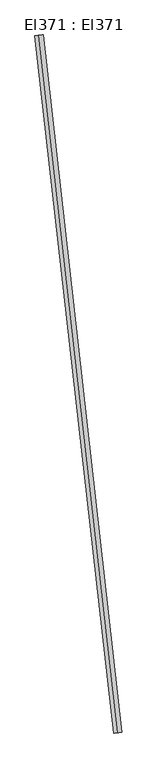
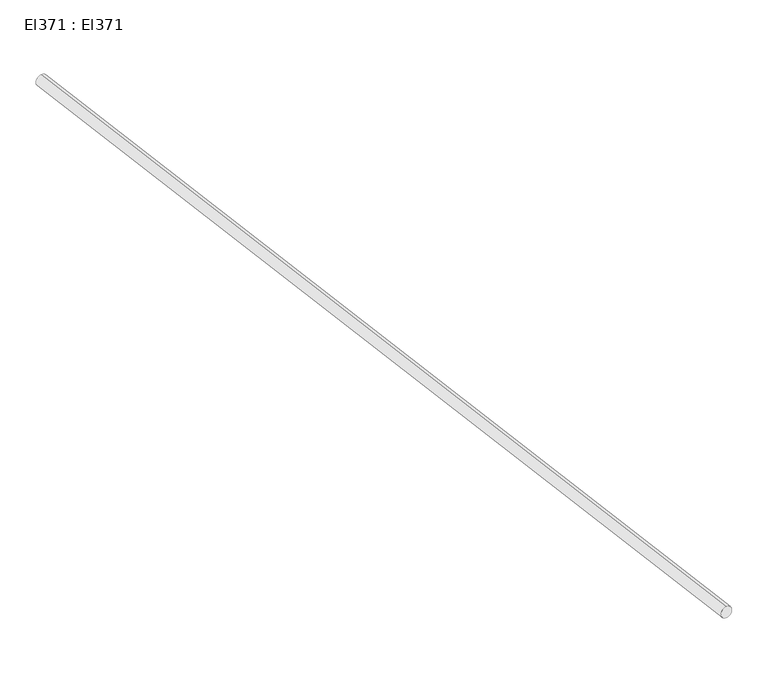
"""IFC4 building model written with IfcOpenShell, lengths in millimetres: cable carrier segment geometry, El371 : El371."""

import ifcopenshell
import ifcopenshell.guid

model = None  # the IFC model being written
_history = None  # IfcOwnerHistory: only IFC2X3 demands one
_inside = {}  # id of a spatial element -> (the spatial element, [elements in it])
_under = {}  # id of a project, library or spatial element -> (it, [spatial elements below it])
_declared = {}  # id of a project -> (the project, [libraries it declares])
_typed = {}  # id of a type object -> (the type object, [elements of that type])
_made_of = {}  # id of a material, layer set ... -> (it, [elements and type objects made of it])


def new_model(schema):
    """Start an empty IFC model of exactly this schema.

    Asked for "IFC4X3", IfcOpenShell would pick the latest addendum, in which some entities
    have other attributes; the version numbers below select the first issue.
    IFC2X3 requires an IfcOwnerHistory on every rooted entity: one is made here for all.
    """
    global model, _history
    if schema == "IFC4X3":
        model = ifcopenshell.file(schema_version=(4, 3, 0, 0))
    else:
        model = ifcopenshell.file(schema=schema)
    _inside.clear()
    _under.clear()
    _declared.clear()
    _typed.clear()
    _made_of.clear()
    _history = None
    if model.schema == "IFC2X3":
        org = make("IfcOrganization", Name="unknown")
        user = make(
            "IfcPersonAndOrganization",
            ThePerson=make("IfcPerson", FamilyName="unknown"),
            TheOrganization=org,
        )
        app = make(
            "IfcApplication",
            ApplicationDeveloper=org,
            Version="unknown",
            ApplicationFullName="unknown",
            ApplicationIdentifier="unknown",
        )
        _history = make(
            "IfcOwnerHistory",
            OwningUser=user,
            OwningApplication=app,
            ChangeAction="ADDED",
            CreationDate=0,
        )
    return model


def make(cls, **values):
    """One entity of the class cls with the attributes given. An attribute that is None is left unset."""
    return model.create_entity(
        cls, **{name: value for name, value in values.items() if value is not None}
    )


def rooted(cls, **values):
    """An entity with a GlobalId (a new one), such as an element, a storey or a relation."""
    return make(cls, GlobalId=ifcopenshell.guid.new(), OwnerHistory=_history, **values)


def si_unit(unit_type, name, prefix=None):
    """IfcSIUnit, for example si_unit("LENGTHUNIT", "METRE", prefix="MILLI")."""
    return make("IfcSIUnit", UnitType=unit_type, Prefix=prefix, Name=name)


def assignment(units):
    """IfcUnitAssignment: the units of a project."""
    return None if units is None else make("IfcUnitAssignment", Units=units)


def point(xyz):
    """IfcCartesianPoint."""
    return None if xyz is None else make("IfcCartesianPoint", Coordinates=xyz)


def direction(xyz):
    """IfcDirection."""
    return None if xyz is None else make("IfcDirection", DirectionRatios=xyz)


def frame(location, z_axis=None, x_axis=None):
    """IfcAxis2Placement3D, a coordinate frame: its origin and axes. An axis left out is left unset."""
    return make(
        "IfcAxis2Placement3D",
        Location=point(location),
        Axis=direction(z_axis),
        RefDirection=direction(x_axis),
    )


def frame_2d(location, x_axis=None):
    """IfcAxis2Placement2D, a coordinate frame in the plane: its origin and x axis."""
    return make(
        "IfcAxis2Placement2D", Location=point(location), RefDirection=direction(x_axis)
    )


def origin():
    """The frame at (0, 0, 0) with its axes left unset."""
    return frame((0.0, 0.0, 0.0))


def place(relative_to, where):
    """IfcLocalPlacement: puts the frame where relative to a parent placement (None: the world)."""
    return make(
        "IfcLocalPlacement", PlacementRelTo=relative_to, RelativePlacement=where
    )


def context(
    kind, dimensions, precision=None, world=None, true_north=None, identifier=None
):
    """IfcGeometricRepresentationContext, for example the 3D "Model" context."""
    return make(
        "IfcGeometricRepresentationContext",
        ContextIdentifier=identifier,
        ContextType=kind,
        CoordinateSpaceDimension=dimensions,
        Precision=precision,
        WorldCoordinateSystem=world,
        TrueNorth=true_north,
    )


def project(units=None, contexts=None):
    """IfcProject with its units and contexts."""
    return rooted(
        "IfcProject",
        Name="project",
        RepresentationContexts=contexts,
        UnitsInContext=assignment(units),
    )


def spatial(cls, under=None, at=None, **own):
    """A site, building, storey or space (cls), placed at a placement, below another one or the project."""
    s = rooted(cls, ObjectPlacement=at, **own)
    if under is not None:
        _under.setdefault(under.id(), (under, []))[1].append(s)
    return s


def circle_curve(where, radius):
    """IfcCircle in the frame where."""
    return make("IfcCircle", Position=where, Radius=radius)


def trimmed(basis, trim1, trim2, sense, master):
    """IfcTrimmedCurve: the piece of a basis curve between two trims."""
    return make(
        "IfcTrimmedCurve",
        BasisCurve=basis,
        Trim1=trim1,
        Trim2=trim2,
        SenseAgreement=sense,
        MasterRepresentation=master,
    )


def segment(curve, same_sense, transition):
    """IfcCompositeCurveSegment."""
    return make(
        "IfcCompositeCurveSegment",
        Transition=transition,
        SameSense=same_sense,
        ParentCurve=curve,
    )


def composite_curve(segments, self_intersect=None):
    """IfcCompositeCurve: segments joined end to end."""
    return make("IfcCompositeCurve", Segments=segments, SelfIntersect=self_intersect)


def outline(outer, holes=None, kind="AREA"):
    """IfcArbitraryClosedProfileDef: a profile drawn as a closed curve; with holes, ...WithVoids."""
    if holes is None:
        return make("IfcArbitraryClosedProfileDef", ProfileType=kind, OuterCurve=outer)
    return make(
        "IfcArbitraryProfileDefWithVoids",
        ProfileType=kind,
        OuterCurve=outer,
        InnerCurves=holes,
    )


def extrude(swept, where, along, depth):
    """IfcExtrudedAreaSolid: the profile swept, set in the frame where, extruded along a direction by depth."""
    return make(
        "IfcExtrudedAreaSolid",
        SweptArea=swept,
        Position=where,
        ExtrudedDirection=direction(along),
        Depth=depth,
    )


def shape(context_of_items, identifier, shape_type, items):
    """IfcShapeRepresentation: the items that make up one representation, for example the "Body"."""
    return make(
        "IfcShapeRepresentation",
        ContextOfItems=context_of_items,
        RepresentationIdentifier=identifier,
        RepresentationType=shape_type,
        Items=items,
    )


def source(mapping_origin, context_of_items, identifier, shape_type, items):
    """IfcRepresentationMap: a shape defined once, which mapped items show again and again."""
    return make(
        "IfcRepresentationMap",
        MappingOrigin=mapping_origin,
        MappedRepresentation=shape(context_of_items, identifier, shape_type, items),
    )


def transform(
    local_origin,
    x_axis=None,
    y_axis=None,
    z_axis=None,
    scale=None,
    scale2=None,
    scale3=None,
    uniform=True,
):
    """IfcCartesianTransformationOperator3D, or its non-uniform kind. x_axis, y_axis, z_axis: its Axis1, 2, 3."""
    if uniform:
        return make(
            "IfcCartesianTransformationOperator3D",
            Axis1=direction(x_axis),
            Axis2=direction(y_axis),
            LocalOrigin=point(local_origin),
            Scale=scale,
            Axis3=direction(z_axis),
        )
    return make(
        "IfcCartesianTransformationOperator3DnonUniform",
        Axis1=direction(x_axis),
        Axis2=direction(y_axis),
        LocalOrigin=point(local_origin),
        Scale=scale,
        Axis3=direction(z_axis),
        Scale2=scale2,
        Scale3=scale3,
    )


def mapped(mapping_source, mapping_target):
    """IfcMappedItem: shows the shape of a source again, moved by a transform."""
    return make(
        "IfcMappedItem", MappingSource=mapping_source, MappingTarget=mapping_target
    )


def made_of(thing, what):
    """Note that an element or type object is made of a material, layer set ...; save() writes the relation."""
    if what is not None:
        _made_of.setdefault(what.id(), (what, []))[1].append(thing)
    return thing


def element(
    cls,
    number,
    at=None,
    inside=None,
    cuts=None,
    type_object=None,
    material=None,
    context=None,
    identifier="Body",
    shape_type=None,
    held_by="IfcProductDefinitionShape",
    body=None,
    shapes=None,
    **own,
):
    """One element of the class cls, such as IfcWall. Its Tag is "e" and its number.

    at: its placement. inside: the storey or other place that contains it. cuts: it is an
    opening in that element (IfcRelVoidsElement). A single representation is given by context,
    identifier, shape_type and body (its items); several are given by shapes. held_by: the class
    of the entity that holds the representations. save() writes the other relations.
    """
    e = rooted(cls, Tag="e%d" % number, ObjectPlacement=at, **own)
    if body is not None:
        shapes = [shape(context, identifier, shape_type, body)]
    if shapes is not None:
        e.Representation = make(held_by, Representations=shapes)
    if inside is not None:
        _inside.setdefault(inside.id(), (inside, []))[1].append(e)
    if cuts is not None:
        rooted(
            "IfcRelVoidsElement", RelatingBuildingElement=cuts, RelatedOpeningElement=e
        )
    if type_object is not None:
        _typed.setdefault(type_object.id(), (type_object, []))[1].append(e)
    return made_of(e, material)


def aggregate(whole, parts):
    """IfcRelAggregates: a whole, such as a stair, and the parts it consists of."""
    return rooted("IfcRelAggregates", RelatingObject=whole, RelatedObjects=parts)


def save(model, path):
    """Write the relations noted so far, then the file.

    IfcRelAggregates (storeys below a building ...), IfcRelContainedInSpatialStructure (elements
    in a storey), IfcRelDefinesByType, IfcRelAssociatesMaterial and IfcRelDeclares: one each for
    every whole, place, type object, material and project.
    """
    for whole, parts in _under.values():
        aggregate(whole, parts)
    for where, things in _inside.values():
        rooted(
            "IfcRelContainedInSpatialStructure",
            RelatedElements=things,
            RelatingStructure=where,
        )
    for kind, things in _typed.values():
        rooted("IfcRelDefinesByType", RelatedObjects=things, RelatingType=kind)
    for what, things in _made_of.values():
        rooted("IfcRelAssociatesMaterial", RelatedObjects=things, RelatingMaterial=what)
    for by, libraries in _declared.values():
        rooted("IfcRelDeclares", RelatingContext=by, RelatedDefinitions=libraries)
    model.write(path)


def el371_el371_8ea2ea70(model_context):
    return source(origin(), model_context, "Body", "SweptSolid", [
        extrude(outline(composite_curve([segment(trimmed(circle_curve(frame_2d((0.0, -9.5)), 9.5), [point((0.0, -19.0))], [point((0.0, 0.0))], False, "CARTESIAN"), True, "CONTINUOUS"), segment(trimmed(circle_curve(frame_2d((0.0, -9.5)), 9.5), [point((0.0, 0.0))], [point((0.0, -19.0))], False, "CARTESIAN"), True, "CONTINUOUS")], self_intersect=False)), frame((8335.8131751, 14766.3756201, 2959.5), z_axis=(-0.11219096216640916, 0.993686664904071, 0.0), x_axis=(-0.993686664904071, -0.11219096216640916, 0.0)), (0.0, 0.0, 1.0), 1630.14),
    ])


if __name__ == "__main__":
    model = new_model("IFC4")
    model_context = context("Model", 3, world=origin())
    ifc_project = project(units=[si_unit("LENGTHUNIT", "METRE", prefix="MILLI")], contexts=[model_context])
    site = spatial("IfcSite", under=ifc_project)
    building = spatial("IfcBuilding", under=site)
    placement = place(None, origin())
    el371_el371_shape = el371_el371_8ea2ea70(model_context)
    element("IfcCableCarrierSegment", 1, ObjectType="El371 : El371", at=placement, inside=building, context=model_context, shape_type="MappedRepresentation", body=[
        mapped(el371_el371_shape, transform((0.0, 0.0, 0.0), x_axis=(1.0, 0.0, 0.0), y_axis=(0.0, 1.0, 0.0), z_axis=(0.0, 0.0, 1.0))),
    ])
    save(model, "model.ifc")
